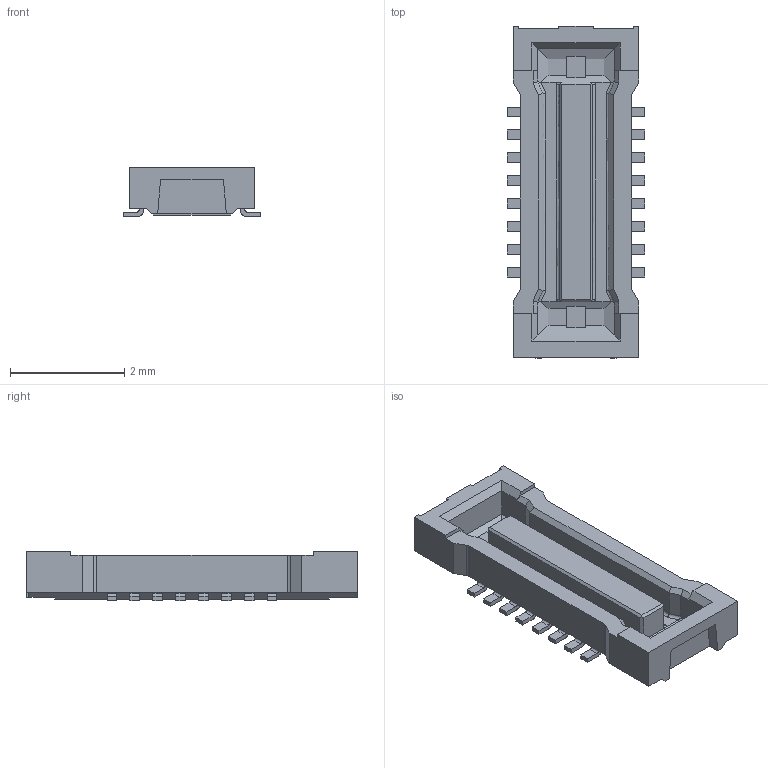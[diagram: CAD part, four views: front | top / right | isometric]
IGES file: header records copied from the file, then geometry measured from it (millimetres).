
Start section: SolidWorks IGES file using analytic representation for surfaces
Bounding box: 2.4 x 5.8 x 0.87 mm (x, y, z)
Surface area: 50 mm2 (no closed solid volume)
Topology: 0 solids, 0 shells, 264 faces, 1596 edges, 1596 vertices
Faces by surface type: bspline 216, revolution 48
